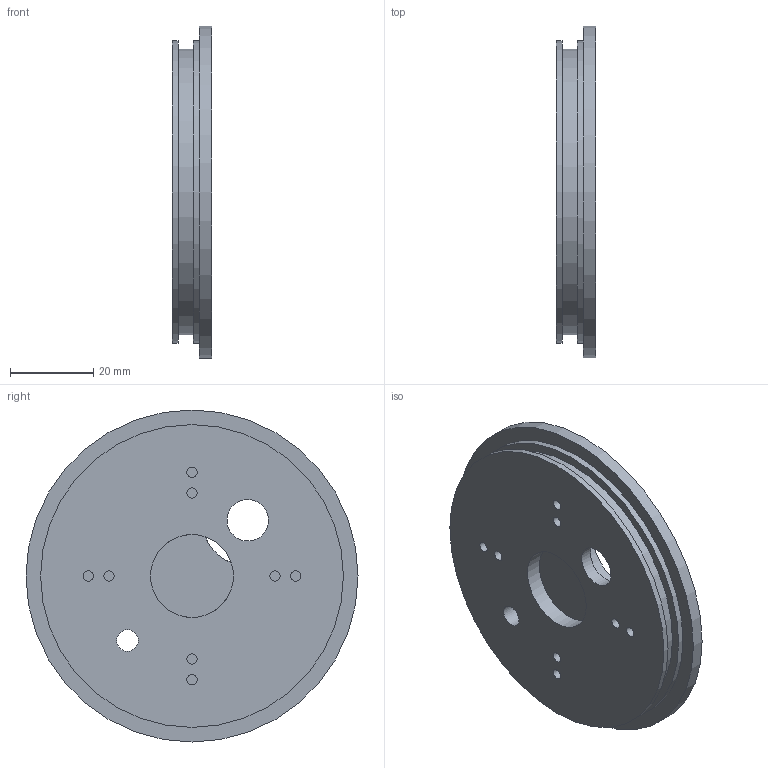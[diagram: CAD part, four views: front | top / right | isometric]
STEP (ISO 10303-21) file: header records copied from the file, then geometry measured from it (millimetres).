
FILE_DESCRIPTION(('Open CASCADE Model'),'2;1');
FILE_NAME('Open CASCADE Shape Model','2026-11-02T23:22:41',('Author'),( 'Open CASCADE'),'Open CASCADE STEP processor 7.9','Open CASCADE 7.9' ,'Unknown');
FILE_SCHEMA(('AUTOMOTIVE_DESIGN { 1 0 10303 214 1 1 1 1 }'));
Length unit declared in the file: millimetre
Products named in the file (1): Open CASCADE STEP translator 7.9 16
Bounding box: 9.5 x 80 x 80 mm (x, y, z)
Volume: 36231 mm3; surface area: 14198 mm2
Topology: 1 solids, 1 shells, 31 faces, 54 edges, 36 vertices
Faces by surface type: cylinder 16, plane 15
Full cylindrical faces by diameter (mm): 2.5 x8, 5.2 x1, 10 x1, 20 x1, 22 x1, 68.79 x1, 72.95 x2, 80 x1
Entity records: 1496 total; most frequent: CARTESIAN_POINT 258, DIRECTION 254, ORIENTED_EDGE 108, PCURVE 108, DEFINITIONAL_REPRESENTATION 108, LINE 86, VECTOR 86, AXIS2_PLACEMENT_3D 68
